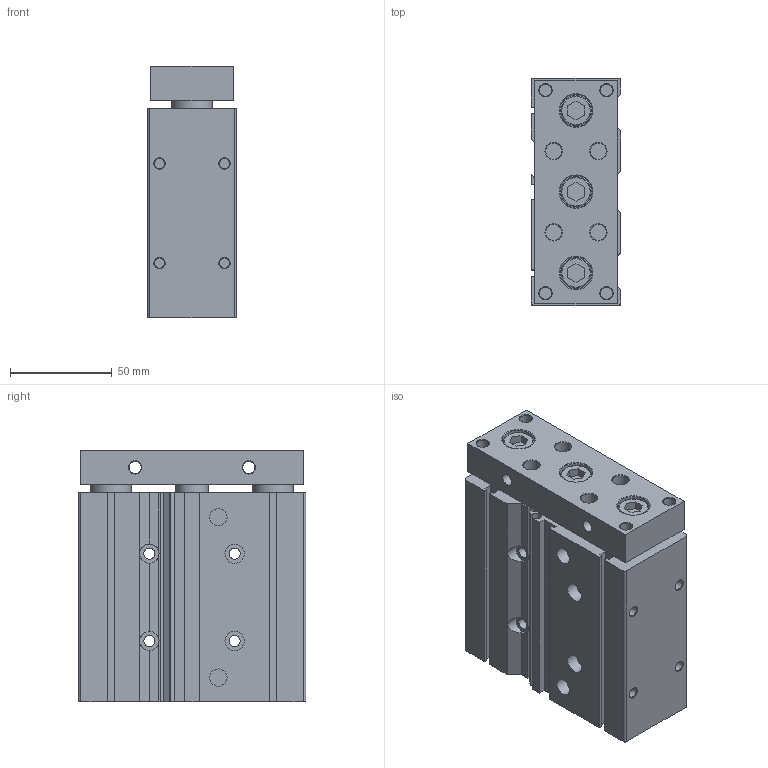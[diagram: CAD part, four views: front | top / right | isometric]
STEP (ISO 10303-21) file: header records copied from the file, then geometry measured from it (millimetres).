
FILE_DESCRIPTION((''),'2;1');
FILE_NAME('Z:\3D電子目錄\氣缸\TB(U)\TB(U)32\TB(U)32\TB32x50.stp','2011-09-22T10:56:24',('admin'),(''),'Autodesk Inventor 2012','Autodesk Inventor 2012','');
FILE_SCHEMA(('AUTOMOTIVE_DESIGN { 1 0 10303 214 1 1 1 1 }'));
Length unit declared in the file: millimetre
Products named in the file (1): TB32X50
Bounding box: 44 x 112 x 124 mm (x, y, z)
Volume: 536365.9 mm3; surface area: 73131.5 mm2
Topology: 1 solids, 1 shells, 206 faces, 462 edges, 294 vertices
Faces by surface type: plane 110, cylinder 56, cone 37, torus 3
Full cylindrical faces by diameter (mm): 5 x8, 5.5 x4, 6 x10, 8 x4, 8.5 x2, 9.5 x8, 15 x3, 16 x4, 20 x4, 28 x2, 34 x1
Entity records: 5348 total; most frequent: DIRECTION 944, CARTESIAN_POINT 873, ORIENTED_EDGE 744, EDGE_CURVE 372, AXIS2_PLACEMENT_3D 365, EDGE_LOOP 364, VERTEX_POINT 294, VECTOR 214
